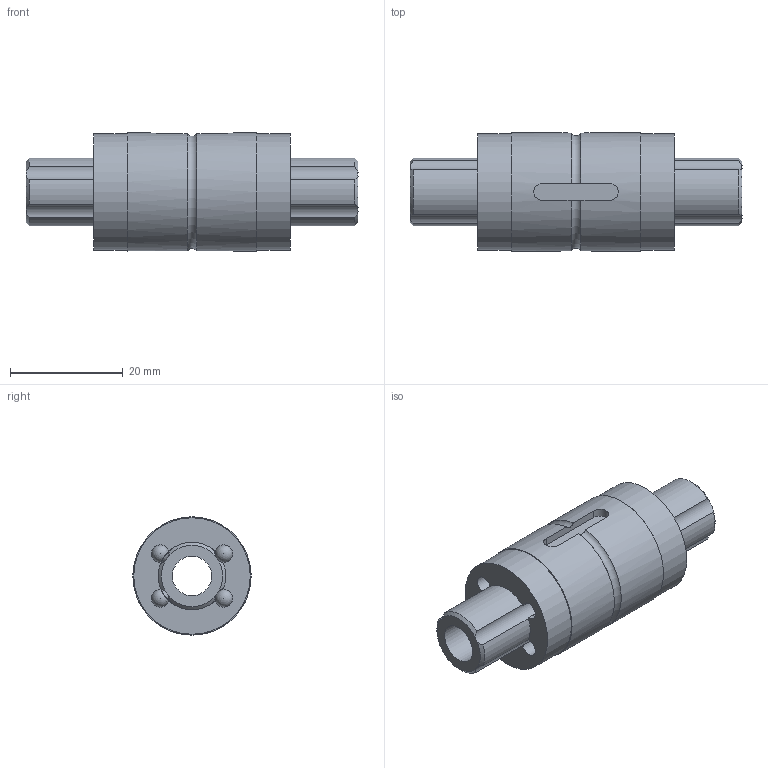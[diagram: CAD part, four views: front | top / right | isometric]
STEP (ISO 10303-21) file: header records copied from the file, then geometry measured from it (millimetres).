
FILE_DESCRIPTION(/* description */ ('Unknown'),/* implementation_level */ '2;1');
FILE_NAME(/* name */ 'TLT012-D1-L60',/* time_stamp */ '2024-12-23T10:12:02+08:00',/* author */ ('Unknown'),/* organization */ ('Unknown'),/* preprocessor_version */ 'ST-DEVELOPER v18.102',/* originating_system */ 'Solid Edge',/* authorisation */ 'Unknown');
FILE_SCHEMA (('AUTOMOTIVE_DESIGN {1 0 10303 214 3 1 1}'));
Length unit declared in the file: millimetre
Products named in the file (3): TLT012-D1-L60; TLT012-D1-xxxx; TLT012
Assembly tree (2 placements, depth 2):
  TLT012-D1-L60
    TLT012-D1-xxxx
    TLT012
Bounding box: 59 x 21 x 21 mm (x, y, z)
Volume: 11444.5 mm3; surface area: 9079.2 mm2
Topology: 2 solids, 2 shells, 59 faces, 313 edges, 206 vertices
Faces by surface type: cylinder 21, sphere 20, plane 9, cone 8, torus 1
Full cylindrical faces by diameter (mm): 1.5 x1, 7 x1, 12 x1, 20.7 x2, 21 x2
Entity records: 3489 total; most frequent: CARTESIAN_POINT 1420, ORIENTED_EDGE 472, DIRECTION 326, EDGE_CURVE 236, VERTEX_POINT 166, AXIS2_PLACEMENT_3D 130, EDGE_LOOP 122, FACE_BOUND 122
